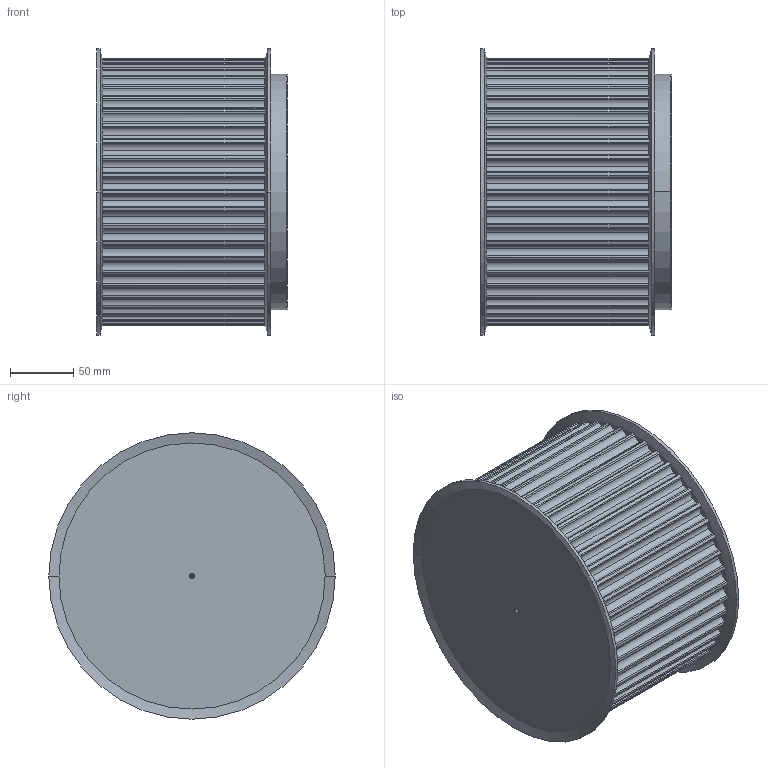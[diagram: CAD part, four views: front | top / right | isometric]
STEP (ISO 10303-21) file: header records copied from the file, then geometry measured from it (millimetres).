
FILE_DESCRIPTION(('STEP AP203'),'1');
FILE_NAME('48_-_14_m_115.stp','2019-12-18T18:15:39',('TraceParts'),('TraceParts S.A.'),'Spatial InterOp 3D',' ',' ');
FILE_SCHEMA(('CONFIG_CONTROL_DESIGN'));
Length unit declared in the file: millimetre
Products named in the file (1): 1
Bounding box: 150.14 x 226 x 226 mm (x, y, z)
Volume: 4866607.6 mm3; surface area: 218687.8 mm2
Topology: 1 solids, 1 shells, 367 faces, 1078 edges, 712 vertices
Faces by surface type: cylinder 250, plane 99, cone 18
Entity records: 13510 total; most frequent: CARTESIAN_POINT 3498, DIRECTION 2232, ORIENTED_EDGE 2148, EDGE_CURVE 1074, AXIS2_PLACEMENT_3D 982, VERTEX_POINT 712, CIRCLE 614, EDGE_LOOP 370
